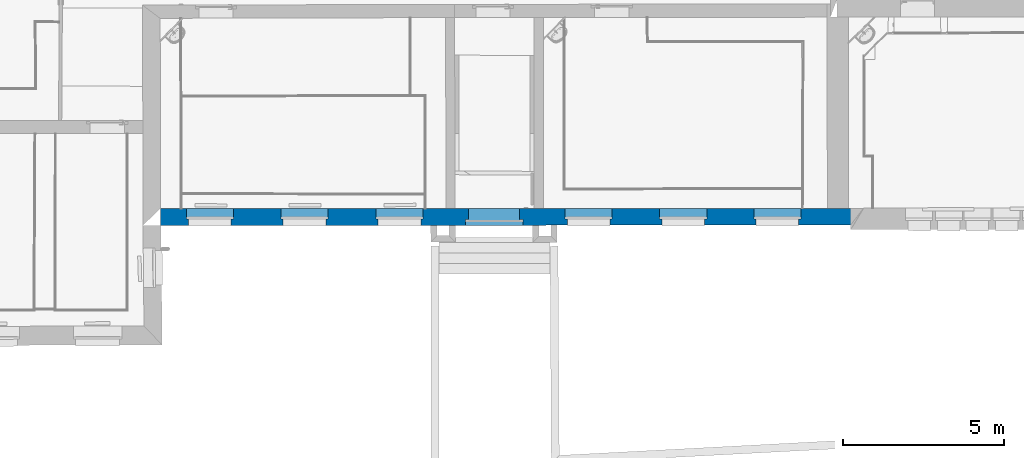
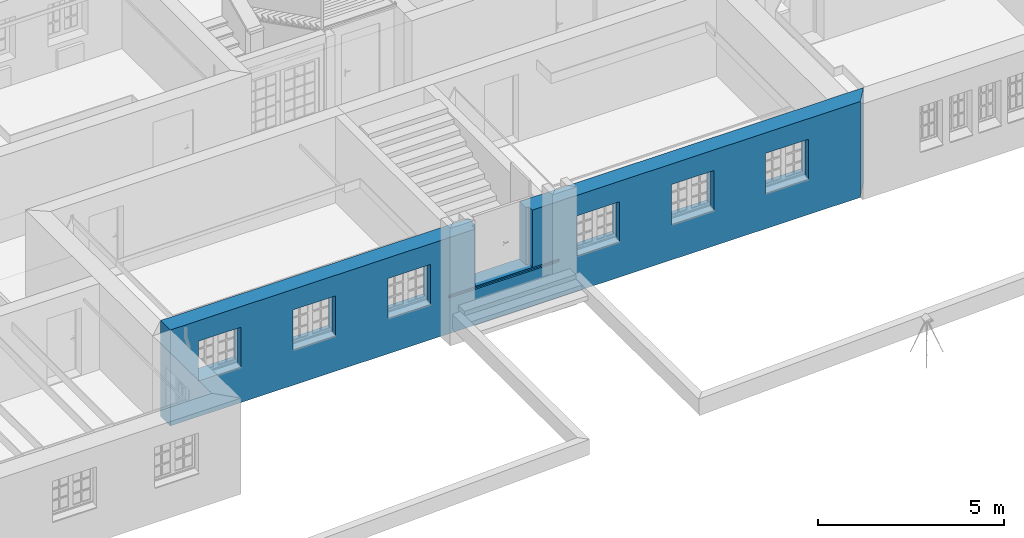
# One storey, part 66 of 196: 1 wall, 7 openings.
"""IFC2X3 building model written with IfcOpenShell, lengths in metres."""

from ifc_helpers import new_model, entity, si_unit, converted_unit, derived_unit, money_unit, direction, frame, origin_with_axes, origin_2d_with_axis, place, context, subcontext, project, spatial, polyline, rectangle, outline, extrude, boolean, faceted_brep, material, type_object, element, save


model = new_model("IFC2X3")

# Units and contexts
model_context = context("Model", 3, precision=1e-05, world=origin_with_axes(), true_north=direction((0.0, 1.0)))
body_context = subcontext(model_context, "Body", "Model", "MODEL_VIEW")
ifc_project = project(units=[si_unit("LENGTHUNIT", "METRE"), si_unit("AREAUNIT", "SQUARE_METRE"), si_unit("VOLUMEUNIT", "CUBIC_METRE"), converted_unit("PLANEANGLEUNIT", "DEGREE", entity("IfcPlaneAngleMeasure", 0.0174532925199), si_unit("PLANEANGLEUNIT", "RADIAN"), dimensions=[0, 0, 0, 0, 0, 0, 0]), money_unit("EUR"), converted_unit("TIMEUNIT", "Year", entity("IfcTimeMeasure", 31556926.0), si_unit("TIMEUNIT", "SECOND"), dimensions=[0, 0, 1, 0, 0, 0, 0]), si_unit("MASSUNIT", "GRAM", prefix="KILO"), si_unit("THERMODYNAMICTEMPERATUREUNIT", "DEGREE_CELSIUS"), si_unit("LUMINOUSINTENSITYUNIT", "LUMEN"), si_unit("ENERGYUNIT", "JOULE", prefix="MEGA"), derived_unit("THERMALCONDUCTANCEUNIT", [(si_unit("POWERUNIT", "WATT"), 1), (si_unit("LENGTHUNIT", "METRE"), -1), (si_unit("THERMODYNAMICTEMPERATUREUNIT", "KELVIN"), -1)]), derived_unit("SPECIFICHEATCAPACITYUNIT", [(si_unit("ENERGYUNIT", "JOULE"), 1), (si_unit("MASSUNIT", "GRAM", prefix="KILO"), -1), (si_unit("THERMODYNAMICTEMPERATUREUNIT", "KELVIN"), -1)]), derived_unit("MASSDENSITYUNIT", [(si_unit("MASSUNIT", "GRAM", prefix="KILO"), 1), (si_unit("VOLUMEUNIT", "CUBIC_METRE"), -1)])], contexts=[model_context])

# Site, building, storey
site_placement = place(None, origin_with_axes())
site = spatial("IfcSite", under=ifc_project, at=site_placement, Name="Gelände", CompositionType="ELEMENT")
building_placement = place(site_placement, origin_with_axes())
building = spatial("IfcBuilding", under=site, at=building_placement, Name="Gebäude", CompositionType="ELEMENT")
storey_placement = place(building_placement, frame((0.0, 0.0, -3.0), z_axis=(0.0, 0.0, 1.0), x_axis=(1.0, 0.0, 0.0)))
storey = spatial("IfcBuildingStorey", under=building, at=storey_placement, Name="KELLERGESCHOSS", CompositionType="ELEMENT", Elevation=-3.0)

# Wall, openings
ifc_material = material(Name="05_ALLGEMEIN - TRAGENDE BAUTEILE")
wall_type = type_object("IfcWallType", Name="05_ALLGEMEIN - TRAGENDE BAUTEILE 525", PredefinedType="ELEMENTEDWALL")
wall_placement = place(storey_placement, frame((-17.748482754, 9.93897605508, -0.36), z_axis=(0.0, 0.0, 1.0), x_axis=(0.999999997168, 7.52624069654e-05, 0.0)))
wall = element("IfcWall", 1, at=wall_placement, inside=storey, type_object=wall_type, material=ifc_material, Name="Wand-030", ObjectType="ELEMENTEDWALL", context=body_context, shape_type="CSG", body=[
    boolean("DIFFERENCE", boolean("DIFFERENCE", boolean("DIFFERENCE", boolean("DIFFERENCE", boolean("DIFFERENCE", boolean("DIFFERENCE", extrude(outline(polyline([(-0.547978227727, 0.0), (21.8303988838, 0.0), (21.8303988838, 0.525), (-0.547978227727, 0.525), (-0.547978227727, 0.0)])), origin_with_axes(), (0.0, 0.0, 1.0), 3.15), faceted_brep([(-0.000968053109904, 0.520000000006, 3.15), (8.8576287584, 0.519999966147, 3.15), (8.85762512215, 0.525, 3.15), (-0.547978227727, 0.525, 3.15), (-0.547978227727, 0.0, 3.15), (0.0, 0.0, 3.15), (-0.000968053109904, 0.520000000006, 2.8), (8.8576287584, 0.519999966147, 2.8), (8.85762512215, 0.525, 2.8), (8.85762512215, 0.525, 0.315651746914), (8.85762512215, 0.525, 0.0), (-0.547978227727, 0.525, 0.0), (-0.000977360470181, 0.52499999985, 2.8), (-0.000977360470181, 0.52499999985, 0.315651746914), (-0.547978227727, 0.0, 0.0), (0.0, 0.0, 0.0), (-0.000968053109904, 0.520000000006, 0.0), (-0.000968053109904, 0.520000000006, 0.315651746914), (8.8576287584, 0.519999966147, 0.315651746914), (8.8576287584, 0.519999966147, 0.0)], [[[0, 1, 2, 3, 4, 5]], [[1, 0, 6, 7]], [[8, 2, 1, 7]], [[9, 10, 11, 3, 2, 8, 12, 13]], [[3, 11, 14, 4]], [[15, 5, 4, 14]], [[0, 5, 15, 16, 17, 13, 12, 6]], [[12, 8, 7, 6]], [[10, 9, 18, 19]], [[16, 15, 14, 11, 10, 19]], [[9, 13, 17, 18]], [[16, 19, 18, 17]]])), faceted_brep([(9.13762519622, 0.525, 0.0), (9.13762519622, 0.525, 0.31957191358), (11.6015211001, 0.525, 0.31957191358), (11.6015211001, 0.525, 0.0), (9.13762883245, 0.52, 0.0), (9.13762883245, 0.52, 0.31957191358), (11.6015216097, 0.519999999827, 0.31957191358), (11.6015216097, 0.519999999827, 0.0)], [[[0, 1, 2, 3]], [[1, 0, 4, 5]], [[2, 1, 5, 6]], [[3, 2, 6, 7]], [[4, 0, 3, 7]], [[4, 7, 6, 5]]])), faceted_brep([(8.63282312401, 0.0, 1.17), (12.0730760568, 0.0, 1.17), (12.0730760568, 0.0, 1.26), (8.63282312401, 0.0, 1.26), (8.63256576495, 0.055, 1.17), (12.0723728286, 0.055, 1.17), (12.0723728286, 0.055, 1.26), (8.63256576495, 0.055, 1.26)], [[[0, 1, 2, 3]], [[1, 0, 4, 5]], [[2, 1, 5, 6]], [[3, 2, 6, 7]], [[0, 3, 7, 4]], [[6, 5, 4, 7]]])), faceted_brep([(11.8915209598, 0.525, 0.0), (11.8915209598, 0.525, 0.325632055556), (20.7034204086, 0.525, 0.325632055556), (20.7034204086, 0.525, 0.0), (11.8915214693, 0.520000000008, 0.0), (11.8915214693, 0.520000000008, 0.325632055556), (20.7034243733, 0.519999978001, 0.325632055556), (20.7034243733, 0.519999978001, 0.0)], [[[0, 1, 2, 3]], [[1, 0, 4, 5]], [[2, 1, 5, 6]], [[3, 2, 6, 7]], [[4, 0, 3, 7]], [[4, 7, 6, 5]]])), faceted_brep([(11.8915214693, 0.520000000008, 3.15), (20.7034243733, 0.519999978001, 3.15), (20.7034204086, 0.525, 3.15), (11.8915209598, 0.525, 3.15), (11.8915214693, 0.520000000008, 2.82), (20.7034243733, 0.519999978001, 2.82), (20.7034204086, 0.525, 2.82), (11.8915209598, 0.525, 2.82)], [[[0, 1, 2, 3]], [[1, 0, 4, 5]], [[6, 2, 1, 5]], [[7, 3, 2, 6]], [[0, 3, 7, 4]], [[7, 6, 5, 4]]])), faceted_brep([(21.3634207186, 0.525, 3.15), (21.3634246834, 0.519999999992, 3.15), (21.8253196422, 0.520369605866, 3.15), (21.819302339, 0.510482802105, 3.15), (21.4291033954, 0.0, 3.15), (21.8303988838, 0.0, 3.15), (21.8303988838, 0.525, 3.15), (21.3634207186, 0.525, 0.0), (21.3634246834, 0.519999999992, 0.0), (21.3634246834, 0.519999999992, 0.32), (21.3634246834, 0.519999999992, 2.8), (21.8253196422, 0.520369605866, 0.0), (21.819302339, 0.510482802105, 0.0), (21.4291033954, 0.0, 0.0), (21.8303988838, 0.0, 0.0), (21.8303988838, 0.525, 0.0)], [[[0, 1, 2, 3, 4, 5, 6]], [[1, 0, 7, 8, 9, 10]], [[2, 1, 10, 9, 8, 11]], [[3, 2, 11, 12]], [[4, 3, 12, 13]], [[4, 13, 14, 5]], [[5, 14, 15, 6]], [[7, 0, 6, 15]], [[8, 7, 15, 14, 13, 12, 11]]])),
])
opening_1_placement = place(wall_placement, frame((16.2288777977, 0.0, 1.16872266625), z_axis=(0.0, 0.0, 1.0), x_axis=(1.0, 0.0, 0.0)))
element("IfcOpeningElement", 2, at=opening_1_placement, cuts=wall, Name="Fenster-014", context=body_context, shape_type="SweptSolid", body=[
    extrude(rectangle(XDim=1.46333140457, YDim=1.37626033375, at=origin_2d_with_axis()), frame((0.0, 0.187384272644, 0.688130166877), z_axis=(0.0, 1.0, 0.0), x_axis=(-1.0, 0.0, 0.0)), (0.0, 0.0, 1.0), 0.862615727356),
    extrude(rectangle(XDim=1.32333140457, YDim=1.30626033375, at=origin_2d_with_axis()), frame((0.0, 0.187384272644, 0.653130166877), z_axis=(0.0, -1.0, 0.0), x_axis=(-1.0, 0.0, 0.0)), (0.0, 0.0, 1.0), 0.712384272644),
])
opening_2_placement = place(wall_placement, frame((19.1518879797, 0.0, 1.16872266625), z_axis=(0.0, 0.0, 1.0), x_axis=(1.0, 0.0, 0.0)))
element("IfcOpeningElement", 3, at=opening_2_placement, cuts=wall, Name="Fenster-014", context=body_context, shape_type="SweptSolid", body=[
    extrude(rectangle(XDim=1.46333140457, YDim=1.37626033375, at=origin_2d_with_axis()), frame((0.0, 0.187384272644, 0.688130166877), z_axis=(0.0, 1.0, 0.0), x_axis=(-1.0, 0.0, 0.0)), (0.0, 0.0, 1.0), 0.862615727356),
    extrude(rectangle(XDim=1.32333140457, YDim=1.30626033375, at=origin_2d_with_axis()), frame((0.0, 0.187384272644, 0.653130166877), z_axis=(0.0, -1.0, 0.0), x_axis=(-1.0, 0.0, 0.0)), (0.0, 0.0, 1.0), 0.712384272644),
])
opening_3_placement = place(wall_placement, frame((13.2903015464, 0.0, 1.16872266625), z_axis=(0.0, 0.0, 1.0), x_axis=(1.0, 0.0, 0.0)))
element("IfcOpeningElement", 4, at=opening_3_placement, cuts=wall, Name="Fenster-014", context=body_context, shape_type="SweptSolid", body=[
    extrude(rectangle(XDim=1.46333140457, YDim=1.37626033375, at=origin_2d_with_axis()), frame((0.0, 0.187384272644, 0.688130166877), z_axis=(0.0, 1.0, 0.0), x_axis=(-1.0, 0.0, 0.0)), (0.0, 0.0, 1.0), 0.862615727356),
    extrude(rectangle(XDim=1.32333140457, YDim=1.30626033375, at=origin_2d_with_axis()), frame((0.0, 0.187384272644, 0.653130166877), z_axis=(0.0, -1.0, 0.0), x_axis=(-1.0, 0.0, 0.0)), (0.0, 0.0, 1.0), 0.712384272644),
])
opening_4_placement = place(wall_placement, frame((7.41878559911, 0.0, 1.16872266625), z_axis=(0.0, 0.0, 1.0), x_axis=(1.0, 0.0, 0.0)))
element("IfcOpeningElement", 5, at=opening_4_placement, cuts=wall, Name="Fenster-014", context=body_context, shape_type="SweptSolid", body=[
    extrude(rectangle(XDim=1.46333140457, YDim=1.37626033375, at=origin_2d_with_axis()), frame((0.0, 0.187384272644, 0.688130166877), z_axis=(0.0, 1.0, 0.0), x_axis=(-1.0, 0.0, 0.0)), (0.0, 0.0, 1.0), 0.862615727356),
    extrude(rectangle(XDim=1.32333140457, YDim=1.30626033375, at=origin_2d_with_axis()), frame((0.0, 0.187384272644, 0.653130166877), z_axis=(0.0, -1.0, 0.0), x_axis=(-1.0, 0.0, 0.0)), (0.0, 0.0, 1.0), 0.712384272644),
])
opening_5_placement = place(wall_placement, frame((4.46737083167, 0.0, 1.16872266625), z_axis=(0.0, 0.0, 1.0), x_axis=(1.0, 0.0, 0.0)))
element("IfcOpeningElement", 6, at=opening_5_placement, cuts=wall, Name="Fenster-014", context=body_context, shape_type="SweptSolid", body=[
    extrude(rectangle(XDim=1.46333140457, YDim=1.37626033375, at=origin_2d_with_axis()), frame((0.0, 0.187384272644, 0.688130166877), z_axis=(0.0, 1.0, 0.0), x_axis=(-1.0, 0.0, 0.0)), (0.0, 0.0, 1.0), 0.862615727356),
    extrude(rectangle(XDim=1.32333140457, YDim=1.30626033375, at=origin_2d_with_axis()), frame((0.0, 0.187384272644, 0.653130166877), z_axis=(0.0, -1.0, 0.0), x_axis=(-1.0, 0.0, 0.0)), (0.0, 0.0, 1.0), 0.712384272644),
])
opening_6_placement = place(wall_placement, frame((1.53076804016, 0.0, 1.16872266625), z_axis=(0.0, 0.0, 1.0), x_axis=(1.0, 0.0, 0.0)))
element("IfcOpeningElement", 7, at=opening_6_placement, cuts=wall, Name="Fenster-014", context=body_context, shape_type="SweptSolid", body=[
    extrude(rectangle(XDim=1.46333140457, YDim=1.37626033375, at=origin_2d_with_axis()), frame((0.0, 0.187384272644, 0.688130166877), z_axis=(0.0, 1.0, 0.0), x_axis=(-1.0, 0.0, 0.0)), (0.0, 0.0, 1.0), 0.862615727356),
    extrude(rectangle(XDim=1.32333140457, YDim=1.30626033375, at=origin_2d_with_axis()), frame((0.0, 0.187384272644, 0.653130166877), z_axis=(0.0, -1.0, 0.0), x_axis=(-1.0, 0.0, 0.0)), (0.0, 0.0, 1.0), 0.712384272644),
])
opening_7_placement = place(wall_placement, frame((10.3588279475, 0.0, 1.2712115), z_axis=(0.0, 0.0, 1.0), x_axis=(1.0, 0.0, 0.0)))
element("IfcOpeningElement", 8, at=opening_7_placement, cuts=wall, Name="Tür-023", context=body_context, shape_type="SweptSolid", body=[
    extrude(rectangle(XDim=1.57985048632, YDim=2.117559, at=origin_2d_with_axis()), frame((0.0, 0.185391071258, 1.0587795), z_axis=(0.0, 1.0, 0.0), x_axis=(1.0, 0.0, 0.0)), (0.0, 0.0, 1.0), 0.864608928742),
    extrude(rectangle(XDim=1.77985048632, YDim=2.217559, at=origin_2d_with_axis()), frame((0.0, 0.105391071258, 1.1087795), z_axis=(0.0, -1.0, 0.0), x_axis=(1.0, 0.0, 0.0)), (0.0, 0.0, 1.0), 0.630391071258),
    extrude(rectangle(XDim=1.77985048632, YDim=2.217559, at=origin_2d_with_axis()), frame((0.0, 0.105391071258, 1.1087795), z_axis=(0.0, -1.0, 0.0), x_axis=(1.0, 0.0, 0.0)), (0.0, 0.0, -1.0), 0.08),
])

save(model, "model.ifc")
